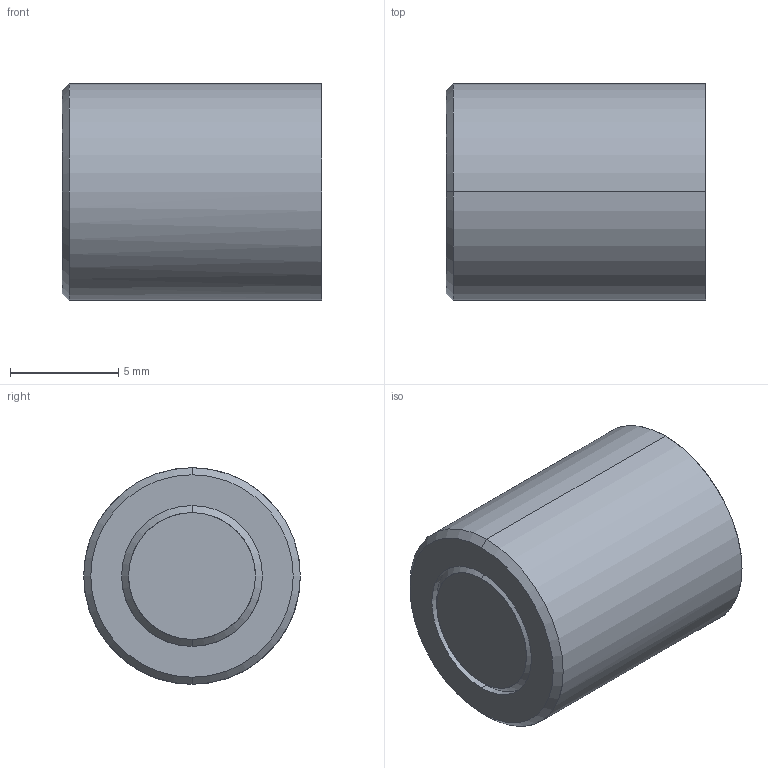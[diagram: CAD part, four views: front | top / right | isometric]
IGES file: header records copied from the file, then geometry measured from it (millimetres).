
Start section: START RECORD GO HERE.
Global section: file name: D375-10-A-DM-FA.igs; native system: DASSAULT SYSTEMES CATIA V5 R20 - www.3ds.com; preprocessor: CATIA Version 5 Release 20 ; author: Utente; organization: NB04-ASUS; date: 20210326.154635; units: millimetre
Bounding box: 12 x 10 x 10 mm (x, y, z)
Surface area: 1015.8 mm2 (no closed solid volume)
Topology: 0 solids, 0 shells, 216 faces, 1188 edges, 1188 vertices
Faces by surface type: plane 135, revolution 81
